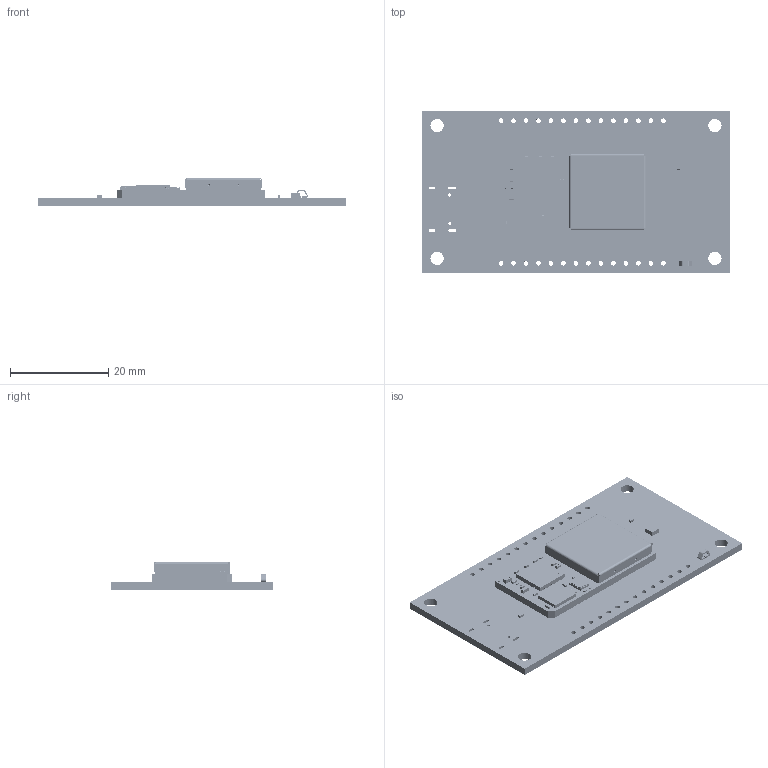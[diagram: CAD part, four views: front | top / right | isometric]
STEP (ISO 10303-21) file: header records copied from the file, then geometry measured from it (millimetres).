
FILE_DESCRIPTION(('KiCad electronic assembly'),'2;1');
FILE_NAME('010250012-C-adsbee_m1090_eval_board.step', '2026-05-10T06:56:01',('Pcbnew'),('Kicad'), 'Open CASCADE STEP processor 7.8','KiCad to STEP converter','Unknown' );
FILE_SCHEMA(('AUTOMOTIVE_DESIGN { 1 0 10303 214 1 1 1 1 }'));
Length unit declared in the file: millimetre
Products named in the file (32): 010250012-C-adsbee_m1090_eval_board 1; DFN-8_2x2mm_P0.5mm; C_0402_1005Metric; adsbee_m1090; R_0201_0603Metric; C_0603_1608Metric; C_0201_0603Metric; PantsForBirds_PFB148-20F; PantsForBIrds_PFB148-20C; L_0402_1005Metric; MSOP-8_3x3mm_P0.65mm; QFN-56-1EP_7x7mm_P0.4mm_EP3.2x3.2mm; SOT-353_SC-70-5; WSON-8-1EP_6x5mm_P1.27mm_EP3.4x4.3mm; Filter_SAW-6_3.0x3.0mm; Crystal_SMD_3225-4Pin_3.2x2.5mm; adsbee_m1090_copper; adsbee_m1090_pad; adsbee_m1090_via; adsbee_m1090_silkscreen; adsbee_m1090_soldermask; adsbee_m1090_PCB; D_0402_1005Metric; Keystone_5015_Micro-Minature; adsbee_m1090_eval_board_pad; adsbee_m1090_eval_board_silkscreen; adsbee_m1090_eval_board_soldermask; adsbee_m1090_eval_board_PCB
Assembly tree (77 placements, depth 3):
  010250012-C-adsbee_m1090_eval_board 1
    DFN-8_2x2mm_P0.5mm
    C_0402_1005Metric  x2
    adsbee_m1090
      R_0201_0603Metric  x17
      C_0603_1608Metric  x2
      C_0402_1005Metric  x17
      C_0201_0603Metric  x10
      PantsForBirds_PFB148-20F
      PantsForBIrds_PFB148-20C
      L_0402_1005Metric  x3
      MSOP-8_3x3mm_P0.65mm
      QFN-56-1EP_7x7mm_P0.4mm_EP3.2x3.2mm
      DFN-8_2x2mm_P0.5mm
      SOT-353_SC-70-5
      WSON-8-1EP_6x5mm_P1.27mm_EP3.4x4.3mm
      Filter_SAW-6_3.0x3.0mm  x2
      Crystal_SMD_3225-4Pin_3.2x2.5mm
      adsbee_m1090_copper
      adsbee_m1090_pad
      adsbee_m1090_via
      adsbee_m1090_silkscreen
      adsbee_m1090_soldermask
      adsbee_m1090_PCB
    D_0402_1005Metric
    Keystone_5015_Micro-Minature
    adsbee_m1090_eval_board_pad
    adsbee_m1090_eval_board_silkscreen
    adsbee_m1090_eval_board_silkscreen
    adsbee_m1090_eval_board_soldermask
    adsbee_m1090_eval_board_soldermask
    adsbee_m1090_eval_board_PCB
Bounding box: 62.5 x 33 x 5.65 mm (x, y, z)
Volume: 4075.2 mm3; surface area: 15152.2 mm2
Topology: 998 solids, 1781 shells, 13241 faces, 49428 edges, 39031 vertices
Faces by surface type: plane 9449, cylinder 3691, bspline 93, sphere 8
Full cylindrical faces by diameter (mm): 0.2 x588, 0.3 x2, 0.35 x1, 0.4 x119, 0.5 x4, 0.65 x2, 0.7 x4, 0.707 x24, 0.95 x84, 1 x62, 1.7 x52, 2.7 x4
Entity records: 508920 total; most frequent: CARTESIAN_POINT 95674, DIRECTION 80776, ORIENTED_EDGE 73507, EDGE_CURVE 46029, VERTEX_POINT 36809, LINE 34946, VECTOR 34946, AXIS2_PLACEMENT_3D 22915
